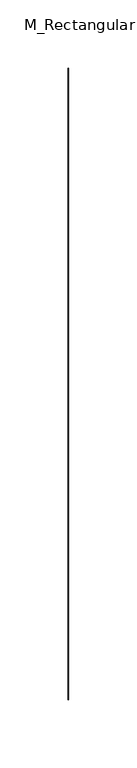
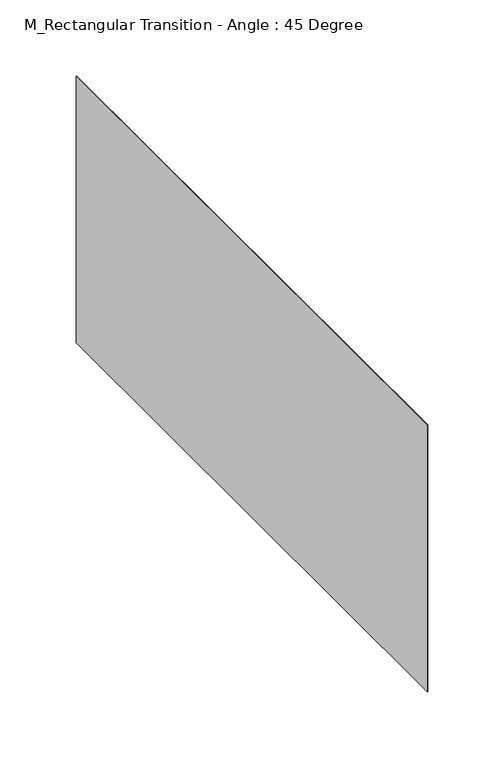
"""IFC4 building model written with IfcOpenShell, lengths in millimetres: duct fitting geometry, M_Rectangular Transition - Angle : 45 Degree."""

from ifc_helpers import new_model, si_unit, origin, place, context, project, spatial, faceted_brep, source, transform, mapped, element, save


def m_rectangular_transition_angle_45_degree_1c32c0a1(model_context):
    return source(origin(), model_context, "Body", "Brep", [
        faceted_brep([(0.362132, -230.9375, 107.15), (0.362132, -230.9375, -107.15), (0.362132, 230.9375, -107.15), (0.362132, 230.9375, 107.15), (0.0, -231.0, 107.0), (0.0, 231.0, 107.0), (0.0, 231.0, -107.0), (0.0, -231.0, -107.0)], [[[0, 1, 2, 3]], [[4, 5, 6, 7]], [[4, 7, 1, 0]], [[7, 6, 2, 1]], [[6, 5, 3, 2]], [[5, 4, 0, 3]]]),
    ])


if __name__ == "__main__":
    model = new_model("IFC4")
    model_context = context("Model", 3, world=origin())
    ifc_project = project(units=[si_unit("LENGTHUNIT", "METRE", prefix="MILLI")], contexts=[model_context])
    site = spatial("IfcSite", under=ifc_project)
    building = spatial("IfcBuilding", under=site)
    placement = place(None, origin())
    m_rectangular_transition_angle_45_degree_shape = m_rectangular_transition_angle_45_degree_1c32c0a1(model_context)
    element("IfcDuctFitting", 1, ObjectType="M_Rectangular Transition - Angle : 45 Degree", at=placement, inside=building, context=model_context, shape_type="MappedRepresentation", body=[
        mapped(m_rectangular_transition_angle_45_degree_shape, transform((0.0, 0.0, 0.0), x_axis=(1.0, 0.0, 0.0), y_axis=(0.0, 1.0, 0.0), z_axis=(0.0, 0.0, 1.0))),
    ])
    save(model, "model.ifc")
